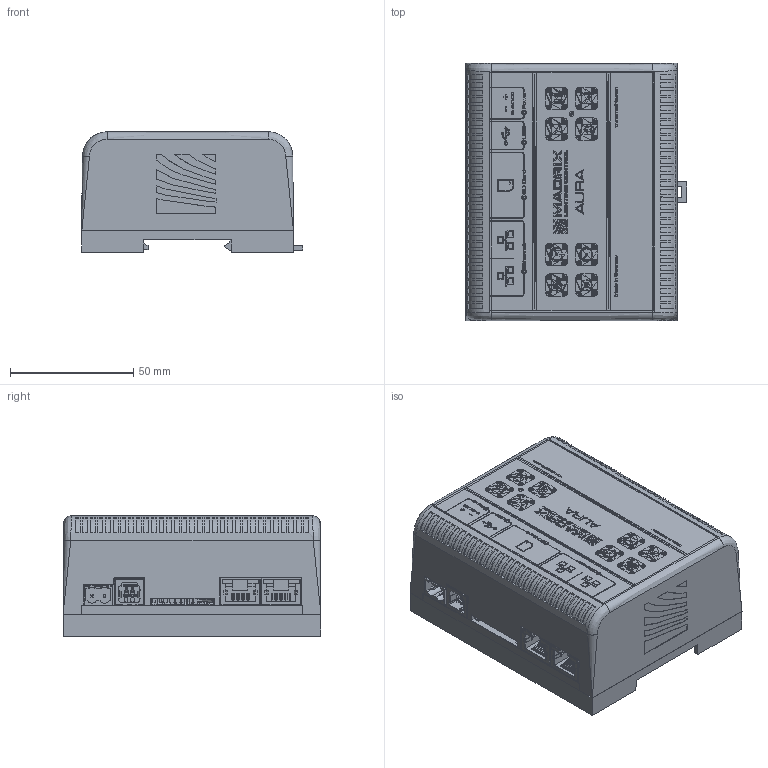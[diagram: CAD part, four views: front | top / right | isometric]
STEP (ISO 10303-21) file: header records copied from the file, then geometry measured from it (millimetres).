
FILE_DESCRIPTION(/* description */ (''),/* implementation_level */ '2;1');
FILE_NAME(/* name */ 'HTF8D6~1',/* time_stamp */ '2024-09-10T13:58:51+02:00',/* author */ (''),/* organization */ (''),/* preprocessor_version */ 'ST-DEVELOPER v16.5',/* originating_system */ '',/* authorisation */ '');
FILE_SCHEMA (('AUTOMOTIVE_DESIGN'));
Products named in the file (3): Document; Aura; print
Assembly tree (2 placements, depth 3):
  Document
    Aura
      print
Bounding box: 89.82 x 104.8 x 48.94 mm (x, y, z)
Volume: 382317.1 mm3; surface area: 75759.2 mm2
Topology: 1 solids, 164 shells, 26986 faces, 48794 edges, 21794 vertices
Faces by surface type: plane 26241, bspline 745
Entity records: 533750 total; most frequent: CARTESIAN_POINT 164982, ORIENTED_EDGE 88714, EDGE_CURVE 48772, B_SPLINE_CURVE_WITH_KNOTS 47403, EDGE_LOOP 27182, ADVANCED_FACE 26986, FACE_OUTER_BOUND 26986, DIRECTION 26255
